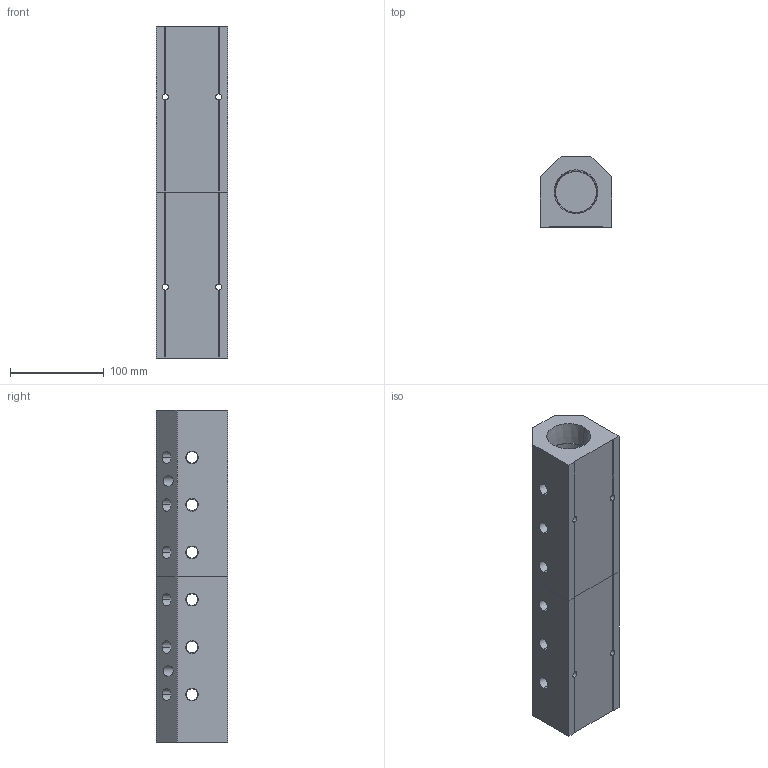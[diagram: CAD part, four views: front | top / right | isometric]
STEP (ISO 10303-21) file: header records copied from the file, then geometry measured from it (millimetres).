
FILE_DESCRIPTION (( 'STEP AP214' ), '1' );
FILE_NAME ('ALM6ABCDE-N4N24-355RB.step', '2022-02-07T07:52:10', ( '' ), ( '' ), 'SwSTEP 2.0', 'SolidWorks 2020', '' );
FILE_SCHEMA (( 'AUTOMOTIVE_DESIGN' ));
Length unit declared in the file: millimetre
Products named in the file (1): ALM6ABCDE-N4N24-355RB
Bounding box: 76.2 x 76.2 x 355 mm (x, y, z)
Volume: 1258784.7 mm3; surface area: 186837.3 mm2
Topology: 2 solids, 2 shells, 421 faces, 1138 edges, 748 vertices
Faces by surface type: plane 261, bspline 76, cone 64, cylinder 20
Entity records: 24501 total; most frequent: CARTESIAN_POINT 10308, ORIENTED_EDGE 2276, DIRECTION 1702, EDGE_CURVE 1138, LINE 810, VECTOR 810, VERTEX_POINT 748, EDGE_LOOP 516
